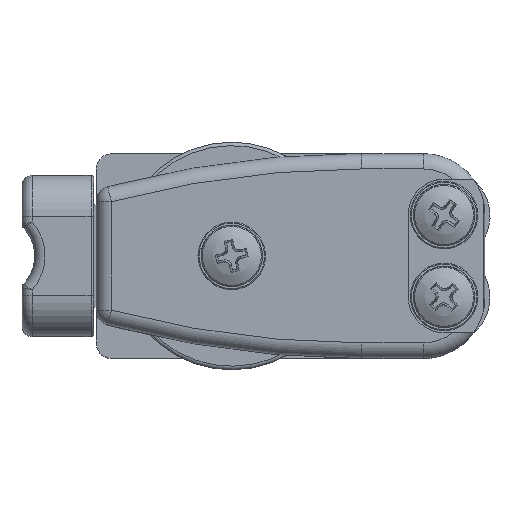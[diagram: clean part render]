
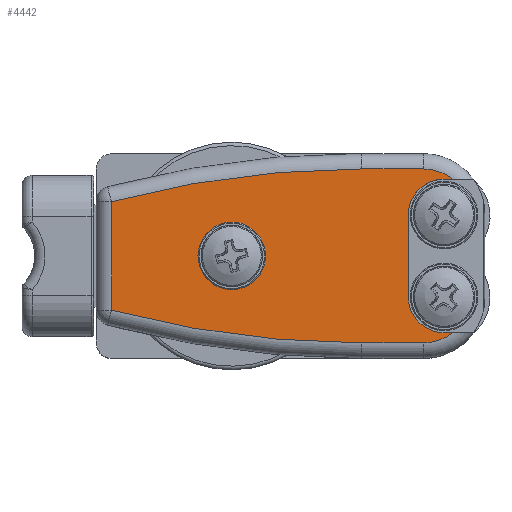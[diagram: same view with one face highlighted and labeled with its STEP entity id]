
A CAD part, top view. The second image highlights one B-rep face of the part: STEP entity #4442.
In plain terms, the highlighted planar face has unit normal (0, 0, 1).
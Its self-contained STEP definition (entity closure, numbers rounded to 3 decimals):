
#93=LINE('',#7144,#332);
#94=LINE('',#7155,#333);
#97=LINE('',#7174,#336);
#101=LINE('',#7201,#340);
#113=LINE('',#7324,#352);
#118=LINE('',#7338,#357);
#332=VECTOR('',#5722,10.);
#333=VECTOR('',#5735,10.);
#336=VECTOR('',#5758,10.);
#340=VECTOR('',#5774,10.);
#352=VECTOR('',#5814,10.);
#357=VECTOR('',#5827,10.);
#849=FACE_BOUND('',#1439,.T.);
#1037=FACE_OUTER_BOUND('',#1438,.T.);
#1438=EDGE_LOOP('',(#3427,#3428,#3429,#3430,#3431,#3432,#3433,#3434,#3435,
#3436,#3437,#3438));
#1439=EDGE_LOOP('',(#3439));
#1762=CIRCLE('',#4849,9.);
#1768=CIRCLE('',#4857,190.);
#1773=CIRCLE('',#4865,190.);
#1778=CIRCLE('',#4872,9.);
#1788=CIRCLE('',#4891,7.);
#1790=CIRCLE('',#4895,7.);
#1796=CIRCLE('',#4911,6.6);
#2082=VERTEX_POINT('',#7121);
#2083=VERTEX_POINT('',#7134);
#2085=VERTEX_POINT('',#7140);
#2087=VERTEX_POINT('',#7146);
#2090=VERTEX_POINT('',#7154);
#2093=VERTEX_POINT('',#7164);
#2095=VERTEX_POINT('',#7170);
#2097=VERTEX_POINT('',#7176);
#2101=VERTEX_POINT('',#7199);
#2126=VERTEX_POINT('',#7323);
#2129=VERTEX_POINT('',#7331);
#2131=VERTEX_POINT('',#7337);
#2141=VERTEX_POINT('',#7397);
#2535=EDGE_CURVE('',#2082,#2083,#1762,.T.);
#2540=EDGE_CURVE('',#2083,#2085,#93,.T.);
#2543=EDGE_CURVE('',#2085,#2087,#1768,.T.);
#2545=EDGE_CURVE('',#2087,#2090,#94,.T.);
#2550=EDGE_CURVE('',#2090,#2093,#1773,.T.);
#2555=EDGE_CURVE('',#2093,#2095,#97,.T.);
#2558=EDGE_CURVE('',#2095,#2097,#1778,.T.);
#2563=EDGE_CURVE('',#2101,#2082,#101,.T.);
#2593=EDGE_CURVE('',#2097,#2126,#113,.T.);
#2597=EDGE_CURVE('',#2126,#2129,#1788,.T.);
#2600=EDGE_CURVE('',#2129,#2131,#118,.T.);
#2603=EDGE_CURVE('',#2131,#2101,#1790,.T.);
#2623=EDGE_CURVE('',#2141,#2141,#1796,.T.);
#3427=ORIENTED_EDGE('',*,*,#2535,.F.);
#3428=ORIENTED_EDGE('',*,*,#2563,.F.);
#3429=ORIENTED_EDGE('',*,*,#2603,.F.);
#3430=ORIENTED_EDGE('',*,*,#2600,.F.);
#3431=ORIENTED_EDGE('',*,*,#2597,.F.);
#3432=ORIENTED_EDGE('',*,*,#2593,.F.);
#3433=ORIENTED_EDGE('',*,*,#2558,.F.);
#3434=ORIENTED_EDGE('',*,*,#2555,.F.);
#3435=ORIENTED_EDGE('',*,*,#2550,.F.);
#3436=ORIENTED_EDGE('',*,*,#2545,.F.);
#3437=ORIENTED_EDGE('',*,*,#2543,.F.);
#3438=ORIENTED_EDGE('',*,*,#2540,.F.);
#3439=ORIENTED_EDGE('',*,*,#2623,.T.);
#4222=PLANE('',#4910);
#4442=ADVANCED_FACE('',(#1037,#849),#4222,.F.);
#4849=AXIS2_PLACEMENT_3D('',#7135,#5711,#5712);
#4857=AXIS2_PLACEMENT_3D('',#7150,#5729,#5730);
#4865=AXIS2_PLACEMENT_3D('',#7165,#5747,#5748);
#4872=AXIS2_PLACEMENT_3D('',#7191,#5763,#5764);
#4891=AXIS2_PLACEMENT_3D('',#7332,#5820,#5821);
#4895=AXIS2_PLACEMENT_3D('',#7343,#5832,#5833);
#4910=AXIS2_PLACEMENT_3D('',#7396,#5872,#5873);
#4911=AXIS2_PLACEMENT_3D('',#7398,#5874,#5875);
#5711=DIRECTION('center_axis',(0.,0.,
-1.));
#5712=DIRECTION('ref_axis',(0.456,-0.89,0.));
#5722=DIRECTION('',(-1.,0.,0.));
#5729=DIRECTION('center_axis',(0.,0.,
-1.));
#5730=DIRECTION('ref_axis',(-0.13,-0.992,0.));
#5735=DIRECTION('',(0.,1.,0.));
#5747=DIRECTION('center_axis',(0.,0.,
-1.));
#5748=DIRECTION('ref_axis',(-0.13,0.992,0.));
#5758=DIRECTION('',(1.,0.,0.));
#5763=DIRECTION('center_axis',(0.,0.,
-1.));
#5764=DIRECTION('ref_axis',(0.456,0.89,0.));
#5774=DIRECTION('',(1.,0.,0.));
#5814=DIRECTION('',(-1.,0.,0.));
#5820=DIRECTION('center_axis',(0.,0.,
1.));
#5821=DIRECTION('ref_axis',(1.,0.,0.));
#5827=DIRECTION('',(0.,-1.,0.));
#5832=DIRECTION('center_axis',(0.,0.,
1.));
#5833=DIRECTION('ref_axis',(0.,1.,0.));
#5872=DIRECTION('center_axis',(0.,0.,
-1.));
#5873=DIRECTION('ref_axis',(-1.,0.,0.));
#5874=DIRECTION('center_axis',(0.,0.,
-1.));
#5875=DIRECTION('ref_axis',(0.,1.,0.));
#7121=CARTESIAN_POINT('',(1.657,-15.,47.5));
#7134=CARTESIAN_POINT('',(-4.,-17.,47.5));
#7135=CARTESIAN_POINT('Origin',(-4.,-8.,47.5));
#7140=CARTESIAN_POINT('',(-16.1,-17.,47.5));
#7144=CARTESIAN_POINT('',(-17.05,-17.,47.5));
#7146=CARTESIAN_POINT('',(-65.,-10.6,47.5));
#7150=CARTESIAN_POINT('Origin',(-16.1,173.,47.5));
#7154=CARTESIAN_POINT('',(-65.,10.6,47.5));
#7155=CARTESIAN_POINT('',(-65.,0.,47.5));
#7164=CARTESIAN_POINT('',(-16.1,17.,47.5));
#7165=CARTESIAN_POINT('Origin',(-16.1,-173.,47.5));
#7170=CARTESIAN_POINT('',(-4.,17.,47.5));
#7174=CARTESIAN_POINT('',(-11.,17.,47.5));
#7176=CARTESIAN_POINT('',(1.657,15.,47.5));
#7191=CARTESIAN_POINT('Origin',(-4.,8.,47.5));
#7199=CARTESIAN_POINT('',(0.,-15.,47.5));
#7201=CARTESIAN_POINT('',(-15.,-15.,47.5));
#7323=CARTESIAN_POINT('',(0.,15.,47.5));
#7324=CARTESIAN_POINT('',(-8.684,15.,47.5));
#7331=CARTESIAN_POINT('',(-7.,8.,47.5));
#7332=CARTESIAN_POINT('Origin',(0.,8.,
47.5));
#7337=CARTESIAN_POINT('',(-7.,-8.,47.5));
#7338=CARTESIAN_POINT('',(-7.,4.,47.5));
#7343=CARTESIAN_POINT('Origin',(0.,-8.,
47.5));
#7396=CARTESIAN_POINT('Origin',(-18.,0.,47.5));
#7397=CARTESIAN_POINT('',(-41.5,6.6,47.5));
#7398=CARTESIAN_POINT('Origin',(-41.5,0.,
47.5));
